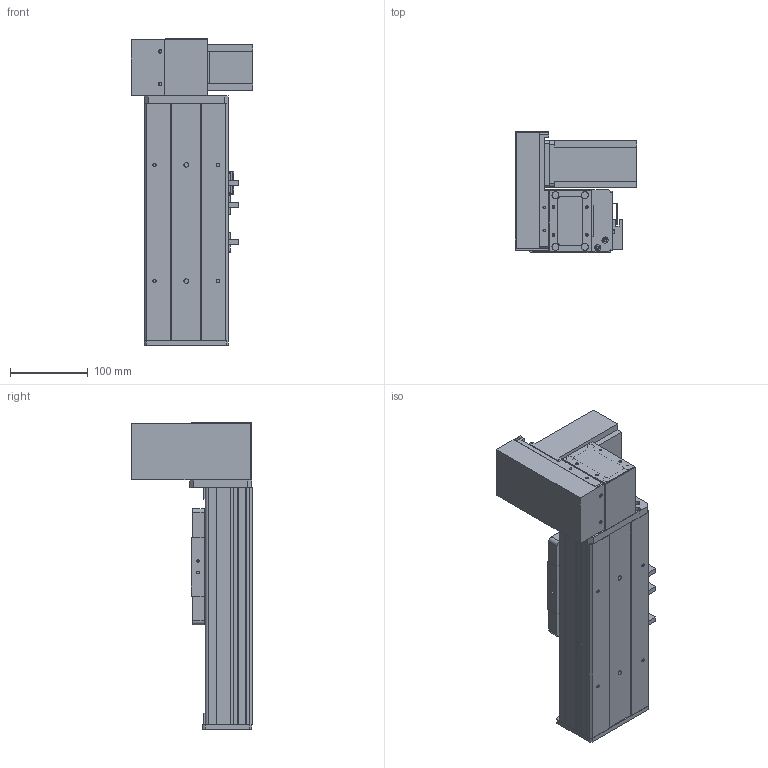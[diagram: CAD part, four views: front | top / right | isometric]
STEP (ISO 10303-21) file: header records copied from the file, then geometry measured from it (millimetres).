
FILE_DESCRIPTION (( 'STEP AP203' ), '1' );
FILE_NAME ('Y10CB-D90-S50-UL-P400W.STEP', '2020-02-16T04:22:06', ( '微软用户' ), ( '微软中国' ), 'SwSTEP 2.0', 'SolidWorks 2017', '' );
FILE_SCHEMA (( 'CONFIG_CONTROL_DESIGN' ));
Length unit declared in the file: millimetre
Products named in the file (18): 0CB-雄赽釱---; 0Cb-俋欶---; Y10B-々湍喘謫眊楊擘啣--; 0B-萇儂楊擘啣; san松下电机400不带刹车----; 0B-源倛裔啣; 0B-埴倛裔啣; 10CB-詩湍-; Y10CB- 掛极耜裔啣-毀---; Y10C---詩湍揤啣; 10CB9-掛极; 10CB-耜裔; Y135C-陔俋离換覜結え-; Y100-135俋离換覜ん--; Y10B-耜蚾蟀諉啣----; 00B-俋欶BM--; Y10B--々湍喘謫眊--666; Y10CB-D90-S50-UL-P400W
Assembly tree (21 placements, depth 2):
  Y10CB-D90-S50-UL-P400W
    0CB-雄赽釱---
    0Cb-俋欶---
    Y10B-々湍喘謫眊楊擘啣--
    0B-萇儂楊擘啣
    san松下电机400不带刹车----
    0B-源倛裔啣
    0B-埴倛裔啣
    10CB-詩湍-
    Y10CB- 掛极耜裔啣-毀---  x2
    Y10C---詩湍揤啣  x2
    10CB9-掛极
    10CB-耜裔
    Y135C-陔俋离換覜結え-
    Y100-135俋离換覜ん--  x3
    Y10B-耜蚾蟀諉啣----
    00B-俋欶BM--
    Y10B--々湍喘謫眊--666
Bounding box: 157 x 155.5 x 396 mm (x, y, z)
Volume: 1478241.7 mm3; surface area: 575148.4 mm2
Topology: 21 solids, 21 shells, 930 faces, 2443 edges, 1610 vertices
Faces by surface type: plane 467, cylinder 439, cone 24
Entity records: 28412 total; most frequent: CARTESIAN_POINT 4729, DIRECTION 4658, ORIENTED_EDGE 4356, EDGE_CURVE 2178, AXIS2_PLACEMENT_3D 1669, VERTEX_POINT 1436, LINE 1320, VECTOR 1320
